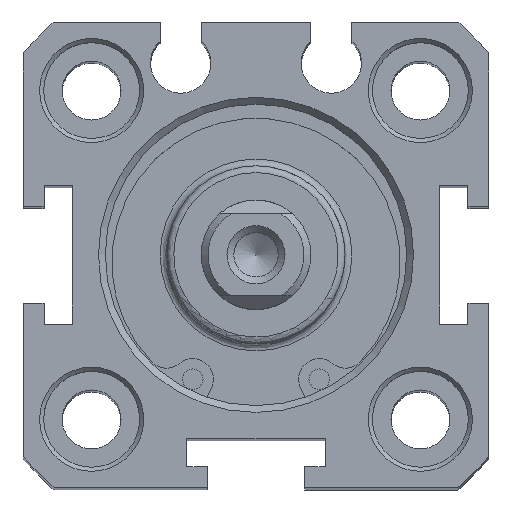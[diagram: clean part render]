
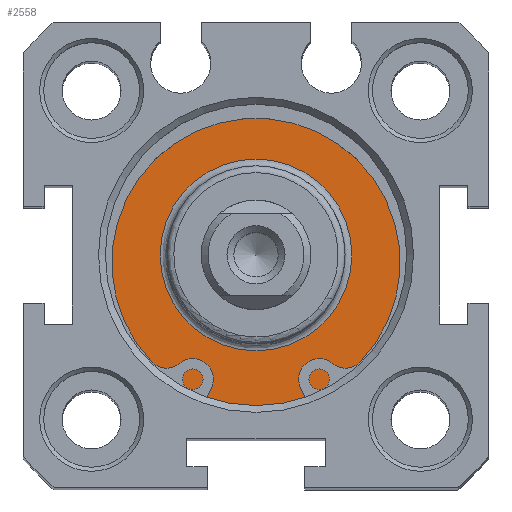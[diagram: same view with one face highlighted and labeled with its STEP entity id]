
A CAD part, top view. The second image highlights one B-rep face of the part: STEP entity #2558.
In plain terms, the highlighted planar face has unit normal (0, 0, 1).
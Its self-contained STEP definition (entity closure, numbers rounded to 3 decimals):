
#2507=CARTESIAN_POINT('',(0.24,8.683,91.8));
#2508=VERTEX_POINT('',#2507);
#2509=CARTESIAN_POINT('',(0.24,1.683,91.8));
#2510=DIRECTION('',(0.0,0.0,1.0));
#2511=DIRECTION('',(0.0,-1.0,0.0));
#2512=AXIS2_PLACEMENT_3D('',#2509,#2510,#2511);
#2513=CIRCLE('',#2512,7.);
#2514=EDGE_CURVE('',#2508,#2508,#2513,.T.);
#2539=CARTESIAN_POINT('',(0.24,10.433,91.8));
#2540=DIRECTION('',(0.0,0.0,1.0));
#2541=DIRECTION('',(1.0,0.0,0.0));
#2542=AXIS2_PLACEMENT_3D('',#2539,#2540,#2541);
#2543=PLANE('',#2542);
#2544=CARTESIAN_POINT('',(0.24,12.683,91.8));
#2545=VERTEX_POINT('',#2544);
#2546=CARTESIAN_POINT('',(0.24,1.683,91.8));
#2547=DIRECTION('',(0.0,0.0,-1.0));
#2548=DIRECTION('',(0.0,1.0,0.0));
#2549=AXIS2_PLACEMENT_3D('',#2546,#2547,#2548);
#2550=CIRCLE('',#2549,11.);
#2551=EDGE_CURVE('',#2545,#2545,#2550,.T.);
#2552=ORIENTED_EDGE('',*,*,#2551,.F.);
#2553=EDGE_LOOP('',(#2552));
#2554=FACE_OUTER_BOUND('',#2553,.T.);
#2555=ORIENTED_EDGE('',*,*,#2514,.F.);
#2556=EDGE_LOOP('',(#2555));
#2557=FACE_BOUND('',#2556,.T.);
#2558=ADVANCED_FACE('',(#2554,#2557),#2543,.T.);
